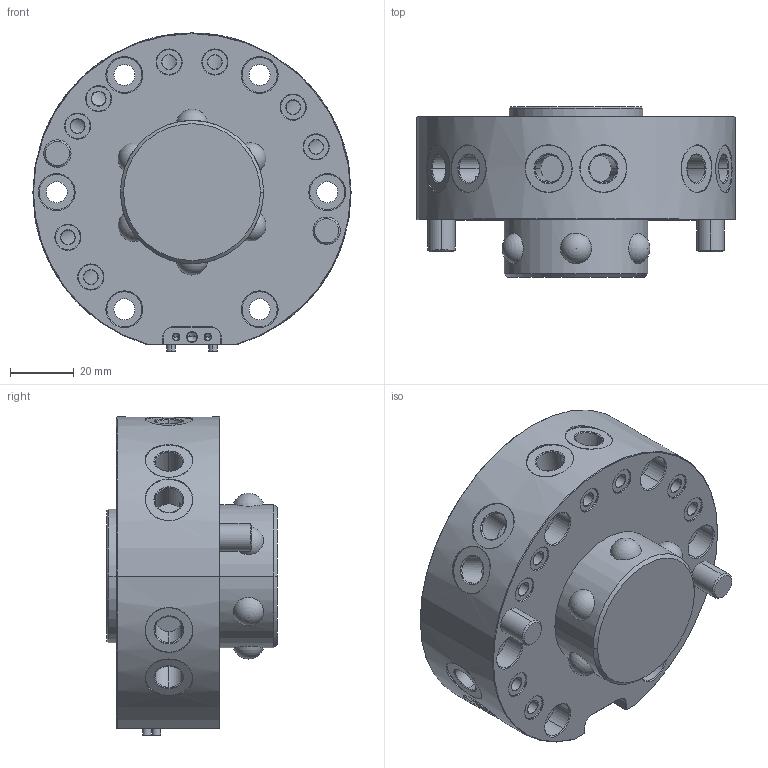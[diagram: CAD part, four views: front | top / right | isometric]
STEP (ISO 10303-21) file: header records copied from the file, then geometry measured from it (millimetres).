
FILE_DESCRIPTION (( 'STEP AP203' ), '1' );
FILE_NAME ('TSKP-M50-00 主盘本体.STEP', '2021-08-12T09:36:09', ( '' ), ( '' ), 'SwSTEP 2.0', 'SolidWorks 2018', '' );
FILE_SCHEMA (( 'CONFIG_CONTROL_DESIGN' ));
Length unit declared in the file: millimetre
Products named in the file (1): TSKP-M50-00 翋攫掛极
Bounding box: 100 x 53.5 x 99.92 mm (x, y, z)
Volume: 264100.7 mm3; surface area: 46026 mm2
Topology: 1 solids, 9 shells, 621 faces, 1414 edges, 858 vertices
Faces by surface type: cylinder 210, plane 185, cone 116, torus 84, bspline 20, sphere 6
Entity records: 19543 total; most frequent: CARTESIAN_POINT 5292, DIRECTION 3213, ORIENTED_EDGE 2760, EDGE_CURVE 1380, AXIS2_PLACEMENT_3D 1335, VERTEX_POINT 850, EDGE_LOOP 738, CIRCLE 733
